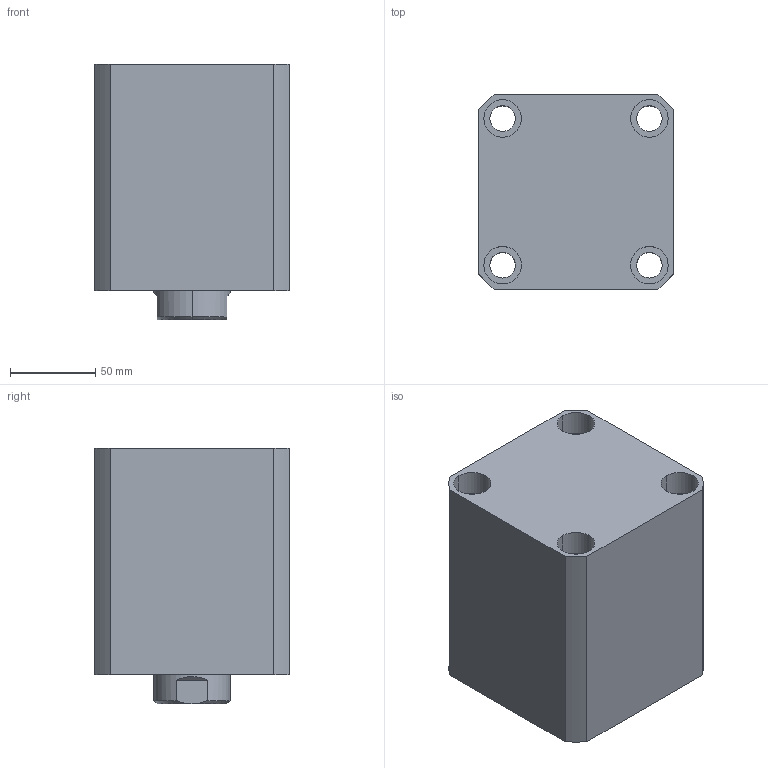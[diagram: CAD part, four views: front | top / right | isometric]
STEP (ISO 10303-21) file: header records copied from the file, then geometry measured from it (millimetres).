
FILE_DESCRIPTION (( 'STEP AP214' ), '1' );
FILE_NAME ('chtb-sdma80x55n_asm.STEP', '2018-05-29T02:15:11', ( 'Windows' ), ( 'Microsoft' ), 'SwSTEP 2.0', 'SolidWorks 2015', '' );
FILE_SCHEMA (( 'AUTOMOTIVE_DESIGN' ));
Length unit declared in the file: millimetre
Products named in the file (4): CHTB-SDMA80X55NBT; CHTB-SD80X55NHSG; CHTB-SD80QG; chtb-sdma80x55n_asm
Assembly tree (3 placements, depth 2):
  chtb-sdma80x55n_asm
    CHTB-SD80QG
    CHTB-SD80X55NHSG
    CHTB-SDMA80X55NBT
Bounding box: 114 x 114 x 150 mm (x, y, z)
Volume: 1385968.2 mm3; surface area: 207146.5 mm2
Topology: 3 solids, 3 shells, 190 faces, 516 edges, 345 vertices
Faces by surface type: cylinder 107, plane 35, torus 18, cone 16, bspline 14
Entity records: 15170 total; most frequent: CARTESIAN_POINT 10463, ORIENTED_EDGE 1020, DIRECTION 879, EDGE_CURVE 510, AXIS2_PLACEMENT_3D 368, VERTEX_POINT 345, EDGE_LOOP 227, FACE_OUTER_BOUND 190
